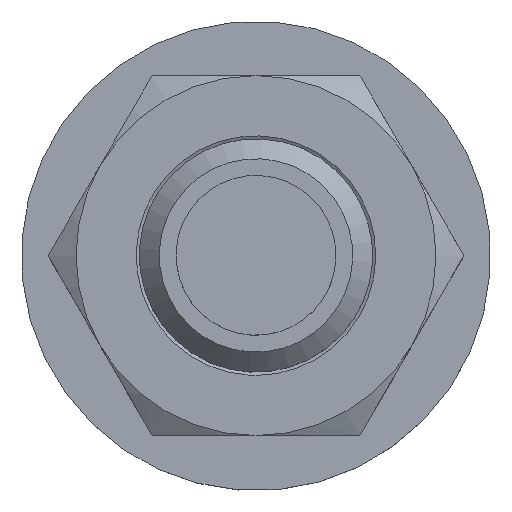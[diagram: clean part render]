
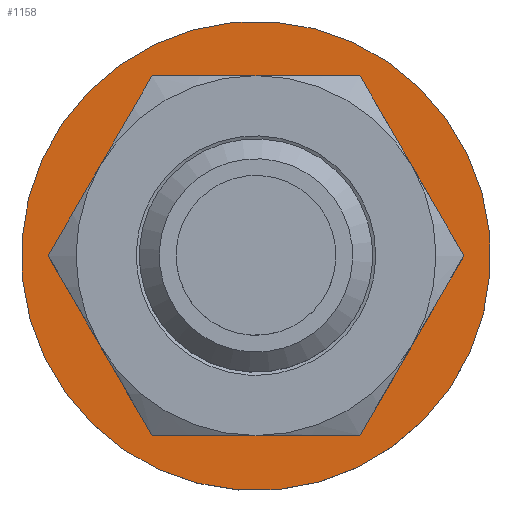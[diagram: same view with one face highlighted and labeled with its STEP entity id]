
A CAD part, top view. The second image highlights one B-rep face of the part: STEP entity #1158.
In plain terms, the highlighted planar face has unit normal (0, 0, 1).
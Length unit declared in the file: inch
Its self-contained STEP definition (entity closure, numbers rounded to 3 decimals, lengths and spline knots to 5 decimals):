
#196=FACE_BOUND('',#303,.T.);
#225=FACE_OUTER_BOUND('',#302,.T.);
#302=EDGE_LOOP('',(#733));
#303=EDGE_LOOP('',(#734,#735,#736,#737,#738,#739));
#408=CIRCLE('',#1238,0.367);
#409=CIRCLE('',#1239,0.2815);
#410=CIRCLE('',#1240,0.2815);
#411=CIRCLE('',#1241,0.2815);
#412=CIRCLE('',#1242,0.2815);
#413=CIRCLE('',#1243,0.2815);
#414=CIRCLE('',#1244,0.2815);
#473=VERTEX_POINT('',#1719);
#474=VERTEX_POINT('',#1721);
#475=VERTEX_POINT('',#1722);
#476=VERTEX_POINT('',#1724);
#477=VERTEX_POINT('',#1726);
#478=VERTEX_POINT('',#1728);
#479=VERTEX_POINT('',#1730);
#578=EDGE_CURVE('',#473,#473,#408,.T.);
#579=EDGE_CURVE('',#474,#475,#409,.T.);
#580=EDGE_CURVE('',#475,#476,#410,.T.);
#581=EDGE_CURVE('',#476,#477,#411,.T.);
#582=EDGE_CURVE('',#477,#478,#412,.T.);
#583=EDGE_CURVE('',#478,#479,#413,.T.);
#584=EDGE_CURVE('',#479,#474,#414,.T.);
#733=ORIENTED_EDGE('',*,*,#578,.T.);
#734=ORIENTED_EDGE('',*,*,#579,.T.);
#735=ORIENTED_EDGE('',*,*,#580,.T.);
#736=ORIENTED_EDGE('',*,*,#581,.T.);
#737=ORIENTED_EDGE('',*,*,#582,.T.);
#738=ORIENTED_EDGE('',*,*,#583,.T.);
#739=ORIENTED_EDGE('',*,*,#584,.T.);
#1043=PLANE('',#1237);
#1158=ADVANCED_FACE('',(#225,#196),#1043,.T.);
#1237=AXIS2_PLACEMENT_3D('',#1718,#1381,#1382);
#1238=AXIS2_PLACEMENT_3D('',#1720,#1383,#1384);
#1239=AXIS2_PLACEMENT_3D('',#1723,#1385,#1386);
#1240=AXIS2_PLACEMENT_3D('',#1725,#1387,#1388);
#1241=AXIS2_PLACEMENT_3D('',#1727,#1389,#1390);
#1242=AXIS2_PLACEMENT_3D('',#1729,#1391,#1392);
#1243=AXIS2_PLACEMENT_3D('',#1731,#1393,#1394);
#1244=AXIS2_PLACEMENT_3D('',#1732,#1395,#1396);
#1381=DIRECTION('center_axis',(0.,0.,
1.));
#1382=DIRECTION('ref_axis',(-0.969,0.247,0.));
#1383=DIRECTION('center_axis',(0.,0.,
1.));
#1384=DIRECTION('ref_axis',(0.247,0.969,0.));
#1385=DIRECTION('center_axis',(0.,0.,
-1.));
#1386=DIRECTION('ref_axis',(1.,0.,0.));
#1387=DIRECTION('center_axis',(0.,0.,
-1.));
#1388=DIRECTION('ref_axis',(1.,0.,0.));
#1389=DIRECTION('center_axis',(0.,0.,
-1.));
#1390=DIRECTION('ref_axis',(1.,0.,0.));
#1391=DIRECTION('center_axis',(0.,0.,
-1.));
#1392=DIRECTION('ref_axis',(1.,0.,0.));
#1393=DIRECTION('center_axis',(0.,0.,
-1.));
#1394=DIRECTION('ref_axis',(1.,0.,0.));
#1395=DIRECTION('center_axis',(0.,0.,
-1.));
#1396=DIRECTION('ref_axis',(1.,0.,0.));
#1718=CARTESIAN_POINT('Origin',(0.,0.,
4.438));
#1719=CARTESIAN_POINT('',(-0.09081,-0.35559,4.438));
#1720=CARTESIAN_POINT('Origin',(0.,0.,
4.438));
#1721=CARTESIAN_POINT('',(-0.24379,-0.14075,4.438));
#1722=CARTESIAN_POINT('',(-0.24379,0.14075,4.438));
#1723=CARTESIAN_POINT('Origin',(0.,0.,
4.438));
#1724=CARTESIAN_POINT('',(0.,0.2815,4.438));
#1725=CARTESIAN_POINT('Origin',(0.,0.,
4.438));
#1726=CARTESIAN_POINT('',(0.24379,0.14075,4.438));
#1727=CARTESIAN_POINT('Origin',(0.,0.,
4.438));
#1728=CARTESIAN_POINT('',(0.24379,-0.14075,4.438));
#1729=CARTESIAN_POINT('Origin',(0.,0.,
4.438));
#1730=CARTESIAN_POINT('',(0.,-0.2815,4.438));
#1731=CARTESIAN_POINT('Origin',(0.,0.,
4.438));
#1732=CARTESIAN_POINT('Origin',(0.,0.,
4.438));
